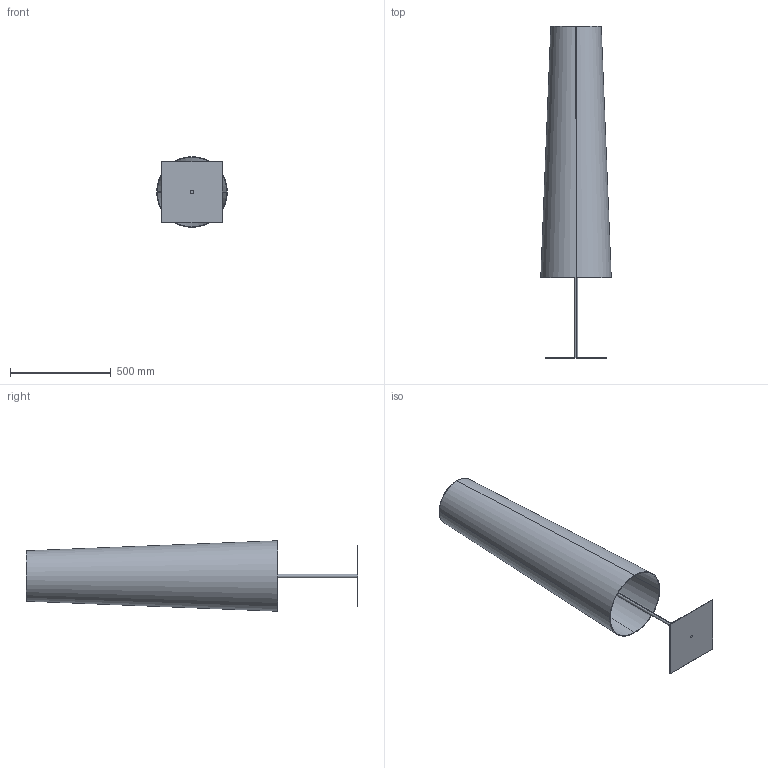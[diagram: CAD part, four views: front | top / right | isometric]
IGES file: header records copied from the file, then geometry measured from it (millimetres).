
Start section: SolidWorks IGES file using analytic representation for surfaces
Global section: file name: C:\Users\Deptecnico\Desktop\3D-MODELOS WEB\3540_018.IGS; native system: SolidWorks 2015; preprocessor: SolidWorks 2015; author: Deptecnico; date: 171127.111907; units: millimetre
Bounding box: 350 x 1649 x 350 mm (x, y, z)
Surface area: 2570383.3 mm2 (no closed solid volume)
Topology: 0 solids, 0 shells, 25 faces, 504 edges, 503 vertices
Faces by surface type: revolution 14, bspline 11
